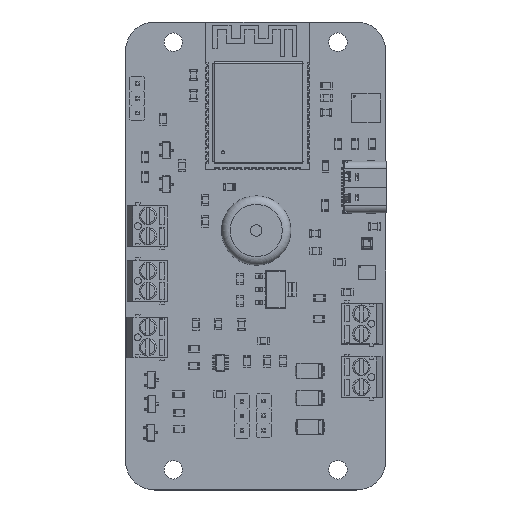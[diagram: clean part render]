
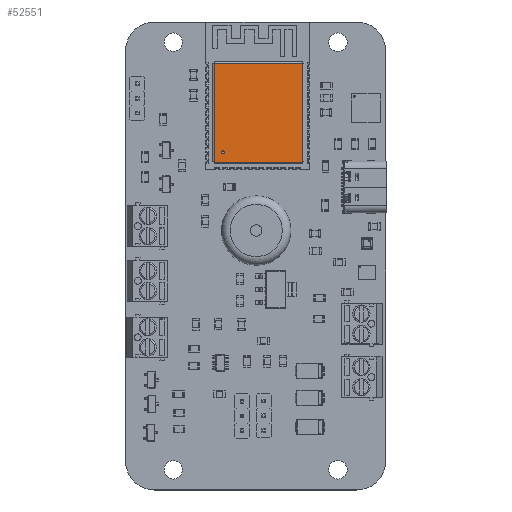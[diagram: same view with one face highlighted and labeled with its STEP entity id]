
A CAD part, top view. The second image highlights one B-rep face of the part: STEP entity #52551.
In plain terms, the highlighted planar face has unit normal (0, 0, 1) as drawn and (0, 1, 0) by its records, which use the part's own axes.
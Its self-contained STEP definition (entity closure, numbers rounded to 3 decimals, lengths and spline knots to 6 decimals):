
#2053=CIRCLE('',#62082,0.000251);
#8507=ORIENTED_EDGE('',*,*,#20139,.T.);
#8508=ORIENTED_EDGE('',*,*,#20162,.F.);
#8509=ORIENTED_EDGE('',*,*,#20163,.F.);
#8510=ORIENTED_EDGE('',*,*,#20145,.T.);
#8511=ORIENTED_EDGE('',*,*,#20164,.F.);
#8512=ORIENTED_EDGE('',*,*,#20165,.F.);
#8513=ORIENTED_EDGE('',*,*,#20147,.T.);
#8514=ORIENTED_EDGE('',*,*,#20166,.F.);
#8515=ORIENTED_EDGE('',*,*,#20167,.F.);
#8516=ORIENTED_EDGE('',*,*,#20135,.T.);
#8517=ORIENTED_EDGE('',*,*,#20168,.F.);
#8518=ORIENTED_EDGE('',*,*,#20169,.F.);
#8519=ORIENTED_EDGE('',*,*,#20170,.F.);
#20135=EDGE_CURVE('',#26431,#26429,#31949,.T.);
#20139=EDGE_CURVE('',#26435,#26433,#31951,.T.);
#20145=EDGE_CURVE('',#26438,#26440,#31954,.T.);
#20147=EDGE_CURVE('',#26443,#26441,#31955,.T.);
#20162=EDGE_CURVE('',#26453,#26433,#31969,.T.);
#20163=EDGE_CURVE('',#26438,#26453,#31970,.T.);
#20164=EDGE_CURVE('',#26454,#26440,#31971,.T.);
#20165=EDGE_CURVE('',#26443,#26454,#31972,.T.);
#20166=EDGE_CURVE('',#26455,#26441,#31973,.T.);
#20167=EDGE_CURVE('',#26431,#26455,#31974,.T.);
#20168=EDGE_CURVE('',#26456,#26429,#31975,.T.);
#20169=EDGE_CURVE('',#26435,#26456,#31976,.T.);
#20170=EDGE_CURVE('',#26457,#26457,#2053,.F.);
#26429=VERTEX_POINT('',#85140);
#26431=VERTEX_POINT('',#85143);
#26433=VERTEX_POINT('',#85149);
#26435=VERTEX_POINT('',#85152);
#26438=VERTEX_POINT('',#85159);
#26440=VERTEX_POINT('',#85163);
#26441=VERTEX_POINT('',#85167);
#26443=VERTEX_POINT('',#85170);
#26453=VERTEX_POINT('',#85200);
#26454=VERTEX_POINT('',#85203);
#26455=VERTEX_POINT('',#85206);
#26456=VERTEX_POINT('',#85209);
#26457=VERTEX_POINT('',#85212);
#31949=LINE('',#85142,#38277);
#31951=LINE('',#85151,#38279);
#31954=LINE('',#85164,#38282);
#31955=LINE('',#85169,#38283);
#31969=LINE('',#85199,#38297);
#31970=LINE('',#85201,#38298);
#31971=LINE('',#85202,#38299);
#31972=LINE('',#85204,#38300);
#31973=LINE('',#85205,#38301);
#31974=LINE('',#85207,#38302);
#31975=LINE('',#85208,#38303);
#31976=LINE('',#85210,#38304);
#38277=VECTOR('',#70263,1.);
#38279=VECTOR('',#70271,1.);
#38282=VECTOR('',#70282,1.);
#38283=VECTOR('',#70287,1.);
#38297=VECTOR('',#70313,1.);
#38298=VECTOR('',#70314,1.);
#38299=VECTOR('',#70315,1.);
#38300=VECTOR('',#70316,1.);
#38301=VECTOR('',#70317,1.);
#38302=VECTOR('',#70318,1.);
#38303=VECTOR('',#70319,1.);
#38304=VECTOR('',#70320,1.);
#43203=EDGE_LOOP('',(#8507,#8508,#8509,#8510,#8511,#8512,#8513,#8514,#8515,
#8516,#8517,#8518));
#43204=EDGE_LOOP('',(#8519));
#46325=FACE_BOUND('',#43203,.T.);
#46326=FACE_BOUND('',#43204,.T.);
#49243=PLANE('',#62081);
#52551=ADVANCED_FACE('',(#46325,#46326),#49243,.F.);
#62081=AXIS2_PLACEMENT_3D('',#85198,#70311,#70312);
#62082=AXIS2_PLACEMENT_3D('',#85211,#70321,#70322);
#70263=DIRECTION('',(0.,0.,-1.));
#70271=DIRECTION('',(-1.,0.,0.));
#70282=DIRECTION('',(0.,0.,1.));
#70287=DIRECTION('',(1.,0.,0.));
#70311=DIRECTION('',(0.,-1.,0.));
#70312=DIRECTION('',(0.,0.,-1.));
#70313=DIRECTION('',(0.,0.,-1.));
#70314=DIRECTION('',(1.,0.,0.));
#70315=DIRECTION('',(-1.,0.,0.));
#70316=DIRECTION('',(0.,0.,-1.));
#70317=DIRECTION('',(0.,0.,1.));
#70318=DIRECTION('',(-1.,0.,0.));
#70319=DIRECTION('',(1.,0.,0.));
#70320=DIRECTION('',(0.,0.,1.));
#70321=DIRECTION('',(0.,-1.,0.));
#70322=DIRECTION('',(0.,0.,-1.));
#85140=CARTESIAN_POINT('',(0.007749,0.00325,-0.005629));
#85142=CARTESIAN_POINT('',(0.007749,0.00325,0.));
#85143=CARTESIAN_POINT('',(0.007749,0.00325,0.011429));
#85149=CARTESIAN_POINT('',(-0.007529,0.00325,-0.005649));
#85151=CARTESIAN_POINT('',(0.,0.00325,-0.005649));
#85152=CARTESIAN_POINT('',(0.007729,0.00325,-0.005649));
#85159=CARTESIAN_POINT('',(-0.007549,0.00325,-0.005629));
#85163=CARTESIAN_POINT('',(-0.007549,0.00325,0.011429));
#85164=CARTESIAN_POINT('',(-0.007549,0.00325,0.));
#85167=CARTESIAN_POINT('',(0.007729,0.00325,0.011449));
#85169=CARTESIAN_POINT('',(0.,0.00325,0.011449));
#85170=CARTESIAN_POINT('',(-0.007529,0.00325,0.011449));
#85198=CARTESIAN_POINT('',(0.,0.00325,0.));
#85199=CARTESIAN_POINT('',(-0.007529,0.00325,-0.005629));
#85200=CARTESIAN_POINT('',(-0.007529,0.00325,-0.005629));
#85201=CARTESIAN_POINT('',(-0.007529,0.00325,-0.005629));
#85202=CARTESIAN_POINT('',(-0.007529,0.00325,0.011429));
#85203=CARTESIAN_POINT('',(-0.007529,0.00325,0.011429));
#85204=CARTESIAN_POINT('',(-0.007529,0.00325,0.0117));
#85205=CARTESIAN_POINT('',(0.007729,0.00325,0.0117));
#85206=CARTESIAN_POINT('',(0.007729,0.00325,0.011429));
#85207=CARTESIAN_POINT('',(0.008,0.00325,0.011429));
#85208=CARTESIAN_POINT('',(0.008,0.00325,-0.005629));
#85209=CARTESIAN_POINT('',(0.007729,0.00325,-0.005629));
#85210=CARTESIAN_POINT('',(0.007729,0.00325,-0.005629));
#85211=CARTESIAN_POINT('',(-0.006,0.00325,0.00975));
#85212=CARTESIAN_POINT('',(-0.006,0.00325,0.009499));
